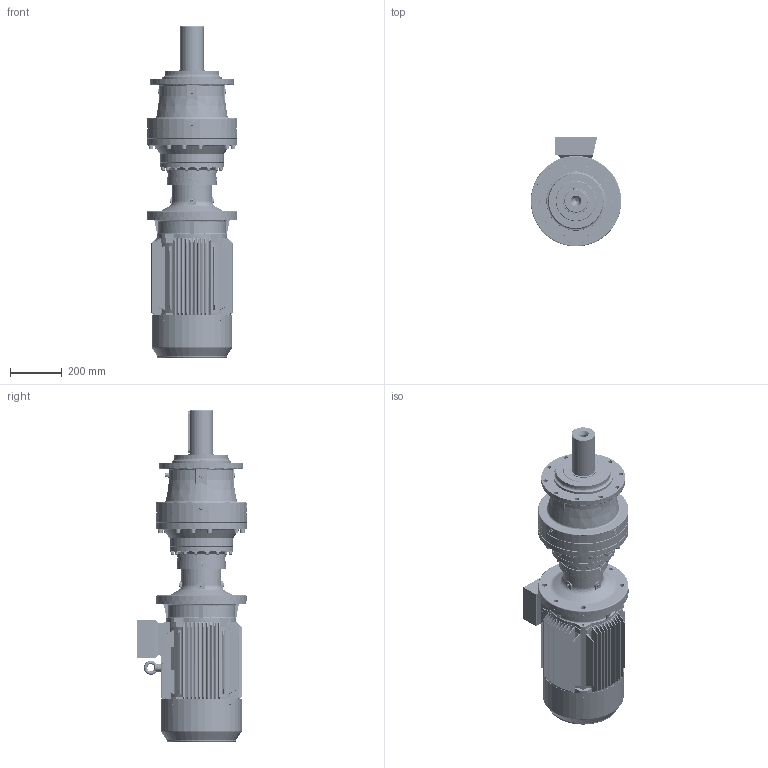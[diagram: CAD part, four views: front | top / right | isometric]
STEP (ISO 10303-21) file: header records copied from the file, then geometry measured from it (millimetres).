
FILE_DESCRIPTION (( 'STEP AP203' ), '1' );
FILE_NAME ('PVL-2303L-HS160L-4.STEP', '2019-05-24T07:52:20', ( '' ), ( '' ), 'SwSTEP 2.0', 'SolidWorks 2012', '' );
FILE_SCHEMA (( 'CONFIG_CONTROL_DESIGN' ));
Products named in the file (18): PVL-2303L-HS160L-4; M3-160L-FF-B5; M3-HS160L-FF-B5; Y2-160_shaft; +¦i-MN2-160_-++ñ; Eyebolts GB_GB_FASTENER_SCREWS_FRS M12N; Y2-160-2ª¥--®+_-++ñ; +ª+§ªiY2-160ñ»ª­_-++ñ; Y2-160L+À+¿(B5)_-++ñ; Y2-160ñ»ª­+¿_-++ñ; Y2-160-4Ý¾6Ý¾8-ª+---®+_-++ñ; Y2-160-180ñ»ª­®+_-++ñ; PNL_2303L_0_0_A16_B5_ML31A_FL7A_0_0_0_0_0_0_0_0_0_0_0_M1; FL7A_Varsayìlan; EK2303L_Varsayìlan; 11160B5_Varsayìlan; ML31A_Varsayìlan; P23_Varsayìlan
Assembly tree (17 placements, depth 5):
  PVL-2303L-HS160L-4
    PNL_2303L_0_0_A16_B5_ML31A_FL7A_0_0_0_0_0_0_0_0_0_0_0_M1
      P23_Varsayìlan
      11160B5_Varsayìlan
      ML31A_Varsayìlan
      EK2303L_Varsayìlan
      FL7A_Varsayìlan
    M3-HS160L-FF-B5
      M3-160L-FF-B5
        +ª+§ªiY2-160ñ»ª­_-++ñ
          Y2-160-180ñ»ª­®+_-++ñ
          Y2-160ñ»ª­+¿_-++ñ
        Y2-160-4Ý¾6Ý¾8-ª+---®+_-++ñ
        Y2-160L+À+¿(B5)_-++ñ
        Eyebolts GB_GB_FASTENER_SCREWS_FRS M12N
        Y2-160-2ª¥--®+_-++ñ
        +¦i-MN2-160_-++ñ
        Y2-160_shaft
Bounding box: 350 x 422 x 1284.1 mm (x, y, z)
Volume: 35427164.3 mm3; surface area: 3843158.5 mm2
Topology: 16 solids, 29 shells, 4442 faces, 11245 edges, 6937 vertices
Faces by surface type: cylinder 1573, plane 1367, cone 753, bspline 628, torus 81, sphere 40
Full cylindrical faces by diameter (mm): 8.566 x1
Entity records: 194421 total; most frequent: CARTESIAN_POINT 90526, ORIENTED_EDGE 22188, DIRECTION 20454, EDGE_CURVE 11102, AXIS2_PLACEMENT_3D 8011, VERTEX_POINT 6923, EDGE_LOOP 4836, FACE_OUTER_BOUND 4441
